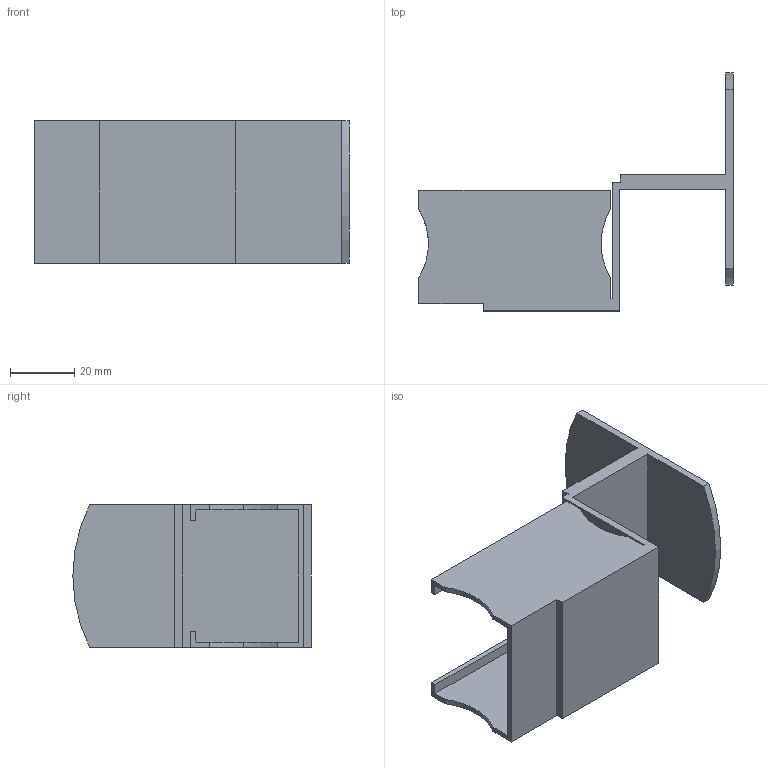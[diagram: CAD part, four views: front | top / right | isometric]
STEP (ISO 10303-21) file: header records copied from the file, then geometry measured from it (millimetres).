
FILE_DESCRIPTION (( 'STEP AP214' ), '1' );
FILE_NAME ('JB-502MJ.step', '2024-01-17T00:59:15', ( 'catia' ), ( 'HP Inc.' ), 'SwSTEP 2.0', 'SolidWorks 2021', '' );
FILE_SCHEMA (( 'AUTOMOTIVE_DESIGN' ));
Length unit declared in the file: millimetre
Products named in the file (1): JB-502MJ
Bounding box: 97.6 x 74 x 44.2 mm (x, y, z)
Volume: 32196.9 mm3; surface area: 27334.8 mm2
Topology: 1 solids, 1 shells, 38 faces, 108 edges, 72 vertices
Faces by surface type: plane 30, cylinder 8
Entity records: 1262 total; most frequent: CARTESIAN_POINT 219, ORIENTED_EDGE 216, DIRECTION 202, EDGE_CURVE 108, VECTOR 92, LINE 92, VERTEX_POINT 72, AXIS2_PLACEMENT_3D 55
